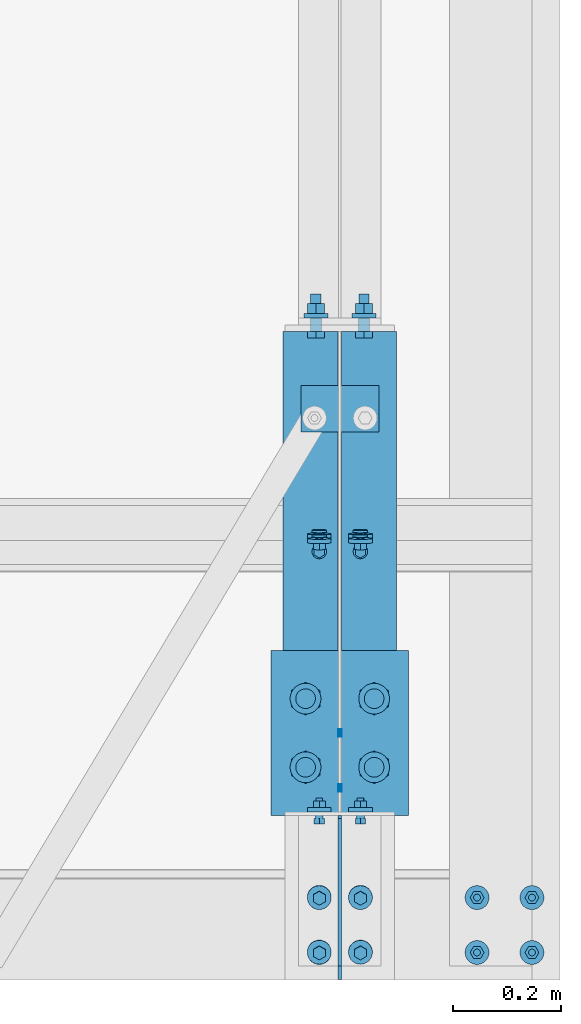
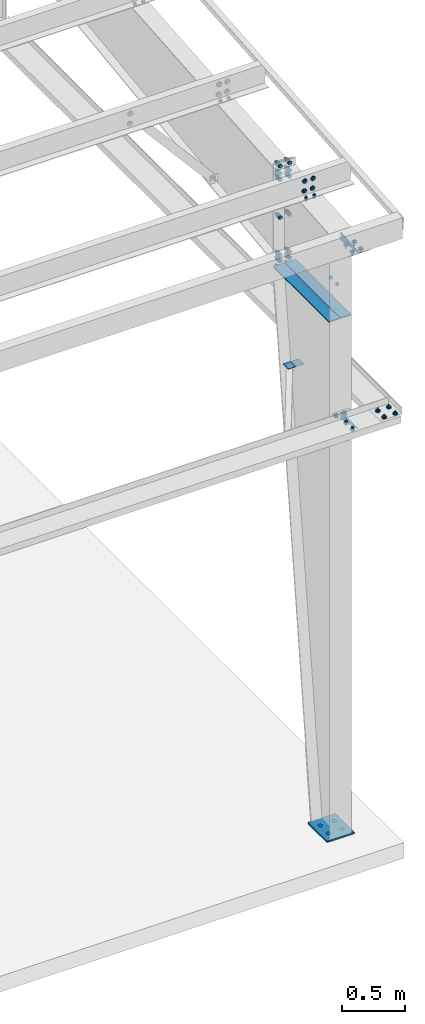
# One storey, part 104 of 185: 13 mechanical fasteners, 7 discrete accessories, 5 elements without a shape of their own.
"""IFC2X3 building model written with IfcOpenShell, lengths in millimetres."""

from ifc_helpers import new_model, si_unit, frame, frame_2d, origin_with_axes, origin_2d_with_axis, place, context, subcontext, project, spatial, polyline, circle_curve, parameter, trimmed, segment, composite_curve, rectangle, circle, outline, extrude, source, transform, mapped, material, type_object, element, aggregate, save


model = new_model("IFC2X3")

# Units and contexts
model_context = context("Model", 3, precision=1e-05, world=origin_with_axes())
body_context = subcontext(model_context, "Body", "Model", "MODEL_VIEW")
ifc_project = project(units=[si_unit("LENGTHUNIT", "METRE", prefix="MILLI"), si_unit("AREAUNIT", "SQUARE_METRE"), si_unit("VOLUMEUNIT", "CUBIC_METRE"), si_unit("MASSUNIT", "GRAM", prefix="KILO"), si_unit("TIMEUNIT", "SECOND"), si_unit("PLANEANGLEUNIT", "RADIAN"), si_unit("SOLIDANGLEUNIT", "STERADIAN"), si_unit("THERMODYNAMICTEMPERATUREUNIT", "DEGREE_CELSIUS"), si_unit("LUMINOUSINTENSITYUNIT", "LUMEN")], contexts=[model_context])

# Site, building, storey
site_placement = place(None, origin_with_axes())
site = spatial("IfcSite", under=ifc_project, at=site_placement, Name="Undefined", CompositionType="ELEMENT")
building_placement = place(site_placement, origin_with_axes())
building = spatial("IfcBuilding", under=site, at=building_placement, Name="Undefined", CompositionType="ELEMENT")
storey_placement = place(building_placement, origin_with_axes())
storey = spatial("IfcBuildingStorey", under=building, at=storey_placement, Name="Undefined", CompositionType="ELEMENT", Elevation=0.0)

# Assembly, discrete accessories
assembly_1_placement = place(storey_placement, origin_with_axes())
assembly_1 = element("IfcElementAssembly", 1, at=assembly_1_placement, inside=storey, Name="Steel Assembly", AssemblyPlace="NOTDEFINED", PredefinedType="RIGID_FRAME")
ifc_material_1 = material(Name="STEEL/55")
discrete_accessory_type_1 = type_object("IfcDiscreteAccessoryType", Name="Stiff")
discrete_accessory_1_placement = place(assembly_1_placement, frame((44605.575, 311.150000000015, 5064.52862492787), z_axis=(-1.0, 0.0, 0.0), x_axis=(0.0, 1.0, 0.0)))
discrete_accessory_1 = element("IfcDiscreteAccessory", 2, at=discrete_accessory_1_placement, type_object=discrete_accessory_type_1, material=ifc_material_1, Name="Stiff", ObjectType="FL3/8\"X4\"", context=body_context, shape_type="SweptSolid", body=[
    extrude(rectangle(XDim=9.525, YDim=101.6, at=origin_2d_with_axis()), frame((889.0, 0.0, 0.0), z_axis=(-1.0, 0.0, 0.0), x_axis=(0.0, -1.0, 0.0)), (0.0, 0.0, 1.0), 889.0),
])
discrete_accessory_2_placement = place(assembly_1_placement, frame((44497.625, 311.150000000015, 5064.52862492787), z_axis=(-1.0, 0.0, 0.0), x_axis=(0.0, 1.0, 0.0)))
discrete_accessory_2 = element("IfcDiscreteAccessory", 3, at=discrete_accessory_2_placement, type_object=discrete_accessory_type_1, material=ifc_material_1, Name="Stiff", ObjectType="FL3/8\"X4\"", context=body_context, shape_type="SweptSolid", body=[
    extrude(rectangle(XDim=9.525, YDim=101.6, at=origin_2d_with_axis()), frame((889.0, 0.0, 0.0), z_axis=(-1.0, 0.0, 0.0), x_axis=(0.0, -1.0, 0.0)), (0.0, 0.0, 1.0), 889.0),
])

# Assembly, mechanical fasteners
assembly_2_placement = place(storey_placement, origin_with_axes())
assembly_2 = element("IfcElementAssembly", 4, at=assembly_2_placement, inside=storey, Name="Steel Assembly", AssemblyPlace="NOTDEFINED", PredefinedType="RIGID_FRAME")
ifc_material_2 = material(Name="Undefined")
discrete_accessory_type_2 = type_object("IfcDiscreteAccessoryType", Name="Bolt assembly")
shared_shape_1 = source(origin_with_axes(), body_context, "Body", "SweptSolid", [
    extrude(circle(Radius=7.14374971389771, at=origin_2d_with_axis()), frame((0.0, -1.59000001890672, 0.0), z_axis=(0.0, 1.0, 0.0), x_axis=(1.0, 0.0, 0.0)), (0.0, 0.0, 1.0), 3.3),
    extrude(circle(Radius=13.4937496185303, at=origin_2d_with_axis()), frame((0.0, -5.5587500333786, 0.0), z_axis=(0.0, 1.0, 0.0), x_axis=(1.0, 0.0, 0.0)), (0.0, 0.0, 1.0), 4.0),
    extrude(circle(Radius=22.2250003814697, at=origin_2d_with_axis()), frame((0.0, 1.5900000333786, 0.0), z_axis=(0.0, 1.0, 0.0), x_axis=(1.0, 0.0, 0.0)), (0.0, 0.0, 1.0), 7.9),
    extrude(outline(polyline([(12.8316099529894, 0.0), (6.4158049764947, 11.1125001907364), (-6.4158049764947, 11.1125001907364), (-12.8316099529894, 0.0), (-6.4158049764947, -11.1125001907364), (6.4158049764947, -11.1125001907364), (12.8316099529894, 0.0)])), frame((0.0, 9.5275000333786, 0.0), z_axis=(0.0, 1.0, 0.0), x_axis=(1.0, 0.0, 0.0)), (0.0, 0.0, 1.0), 12.3),
])
mechanical_fastener_1_placement = place(assembly_2_placement, frame((44513.5, 818.861779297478, 6113.26239802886), z_axis=(-1.0, 0.0, 0.0), x_axis=(0.0, 0.0830454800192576, -0.996545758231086)))
mechanical_fastener_1 = element("IfcMechanicalFastener", 5, at=mechanical_fastener_1_placement, type_object=discrete_accessory_type_2, material=ifc_material_2, Name="Bolt assembly", NominalDiameter=12.6999998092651, NominalLength=38.0999984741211, context=body_context, shape_type="MappedRepresentation", body=[
    mapped(shared_shape_1, transform((0.0, 0.0, 0.0))),
    mapped(shared_shape_1, transform((101.599998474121, 0.0, 0.0))),
])
mechanical_fastener_2_placement = place(assembly_2_placement, frame((44589.7, 818.861779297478, 6113.26239802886), z_axis=(-1.0, 0.0, 0.0), x_axis=(0.0, 0.0830454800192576, -0.996545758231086)))
mechanical_fastener_2 = element("IfcMechanicalFastener", 6, at=mechanical_fastener_2_placement, type_object=discrete_accessory_type_2, material=ifc_material_2, Name="Bolt assembly", NominalDiameter=12.6999998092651, NominalLength=38.0999984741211, context=body_context, shape_type="MappedRepresentation", body=[
    mapped(shared_shape_1, transform((0.0, 0.0, 0.0))),
    mapped(shared_shape_1, transform((101.599998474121, 0.0, 0.0))),
])

# Mechanical fastener
shared_shape_2 = source(origin_with_axes(), body_context, "Body", "SweptSolid", [
    extrude(circle(Radius=7.14374971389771, at=origin_2d_with_axis()), frame((0.0, 0.0, 0.0), z_axis=(0.0, 1.0, 0.0), x_axis=(1.0, 0.0, 0.0)), (0.0, 0.0, 1.0), 6.5),
])
mechanical_fastener_3_placement = place(assembly_1_placement, frame((44554.775, 406.400000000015, 5372.09499893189), z_axis=(0.0, -1.0, 0.0), x_axis=(0.0, 0.0, 1.0)))
mechanical_fastener_3 = element("IfcMechanicalFastener", 7, at=mechanical_fastener_3_placement, type_object=discrete_accessory_type_2, material=ifc_material_2, Name="Bolt assembly", NominalDiameter=12.6999998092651, NominalLength=38.0999984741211, context=body_context, shape_type="MappedRepresentation", body=[
    mapped(shared_shape_2, transform((0.0, 0.0, -50.7999992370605))),
    mapped(shared_shape_2, transform((0.0, 0.0, 50.7999992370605))),
])

# Discrete accessory
discrete_accessory_type_3 = type_object("IfcDiscreteAccessoryType", Name="Base Plate")
discrete_accessory_3_placement = place(assembly_1_placement, frame((44551.6, 304.800000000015, 7.93749999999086), z_axis=(1.0, 0.0, 0.0), x_axis=(0.0, 1.0, 0.0)))
discrete_accessory_3 = element("IfcDiscreteAccessory", 8, at=discrete_accessory_3_placement, type_object=discrete_accessory_type_3, material=ifc_material_1, Name="Base Plate", ObjectType="FL5/8\"X10\"", context=body_context, shape_type="SweptSolid", body=[
    extrude(rectangle(XDim=15.875, YDim=254.0, at=origin_2d_with_axis()), frame((304.856675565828, 0.0, 0.0), z_axis=(-1.0, 0.0, 0.0), x_axis=(0.0, -1.0, 0.0)), (0.0, 0.0, 1.0), 304.9),
])

discrete_accessory_type_4 = type_object("IfcDiscreteAccessoryType", Name="FLANGE BRACE FLIP")
discrete_accessory_4_placement = place(assembly_1_placement, frame((44553.98125, 1057.60629748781, 4166.94511424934), z_axis=(0.0, 1.0, 0.0), x_axis=(1.0, 0.0, 0.0)))
discrete_accessory_4 = element("IfcDiscreteAccessory", 9, at=discrete_accessory_4_placement, type_object=discrete_accessory_type_4, material=ifc_material_1, Name="FLANGE BRACE FLIP", ObjectType="PL1/8\"X2 3/4\"", context=body_context, shape_type="SweptSolid", body=[
    extrude(rectangle(XDim=3.4163, YDim=85.725, at=origin_2d_with_axis()), frame((69.8499999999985, 0.0, 0.0), z_axis=(-1.0, 0.0, 0.0), x_axis=(0.0, -1.0, 0.0)), (0.0, 0.0, 1.0), 69.8),
])

discrete_accessory_5_placement = place(assembly_1_placement, frame((44549.21875, 1057.60629748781, 4166.94511424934), z_axis=(0.0, 1.0, 0.0), x_axis=(-1.0, 0.0, 0.0)))
discrete_accessory_5 = element("IfcDiscreteAccessory", 10, at=discrete_accessory_5_placement, type_object=discrete_accessory_type_4, material=ifc_material_1, Name="FLANGE BRACE FLIP", ObjectType="PL1/8\"X2 3/4\"", context=body_context, shape_type="SweptSolid", body=[
    extrude(rectangle(XDim=3.4163, YDim=85.725, at=origin_2d_with_axis()), frame((69.8499999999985, 0.0, 0.0), z_axis=(-1.0, 0.0, 0.0), x_axis=(0.0, -1.0, 0.0)), (0.0, 0.0, 1.0), 69.8),
])

# Assembly, mechanical fastener
assembly_3_placement = place(storey_placement, origin_with_axes())
assembly_3 = element("IfcElementAssembly", 11, at=assembly_3_placement, inside=storey, Name="Steel Assembly", AssemblyPlace="NOTDEFINED", PredefinedType="RIGID_FRAME")
shared_shape_3 = source(origin_with_axes(), body_context, "Body", "SweptSolid", [
    extrude(circle(Radius=7.14374971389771, at=origin_2d_with_axis()), frame((0.0, -3.08000006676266, 0.0), z_axis=(0.0, 1.0, 0.0), x_axis=(1.0, 0.0, 0.0)), (0.0, 0.0, 1.0), 3.2),
    extrude(circle(Radius=7.14374971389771, at=origin_2d_with_axis()), frame((0.0, -3.08000006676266, 0.0), z_axis=(0.0, 1.0, 0.0), x_axis=(1.0, 0.0, 0.0)), (0.0, 0.0, 1.0), 3.2),
    extrude(outline(polyline([(10.9985221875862, 0.0), (5.4992610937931, 9.52499961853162), (-5.4992610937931, 9.52499961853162), (-10.9985221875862, 0.0), (-5.4992610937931, -9.52499961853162), (5.4992610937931, -9.52499961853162), (10.9985221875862, 0.0)])), frame((0.0, -16.6737496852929, 0.0), z_axis=(0.0, 1.0, 0.0), x_axis=(1.0, 0.0, 0.0)), (0.0, 0.0, 1.0), 9.5),
    extrude(circle(Radius=6.34999990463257, at=origin_2d_with_axis()), frame((0.0, -7.14875006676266, 0.0), z_axis=(0.0, 1.0, 0.0), x_axis=(1.0, 0.0, 0.0)), (0.0, 0.0, 1.0), 38.1),
    extrude(circle(Radius=13.4937496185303, at=origin_2d_with_axis()), frame((0.0, -7.14875006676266, 0.0), z_axis=(0.0, 1.0, 0.0), x_axis=(1.0, 0.0, 0.0)), (0.0, 0.0, 1.0), 4.0),
    extrude(circle(Radius=22.2250003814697, at=origin_2d_with_axis()), frame((0.0, 0.0, 0.0), z_axis=(0.0, 1.0, 0.0), x_axis=(1.0, 0.0, 0.0)), (0.0, 0.0, 1.0), 7.9),
    extrude(outline(polyline([(12.8316099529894, 0.0), (6.4158049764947, 11.1125001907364), (-6.4158049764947, 11.1125001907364), (-12.8316099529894, 0.0), (-6.4158049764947, -11.1125001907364), (6.4158049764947, -11.1125001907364), (12.8316099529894, 0.0)])), frame((0.0, 7.93750000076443, 0.0), z_axis=(0.0, 1.0, 0.0), x_axis=(1.0, 0.0, 0.0)), (0.0, 0.0, 1.0), 12.3),
])
mechanical_fastener_4_placement = place(assembly_3_placement, frame((44907.1949989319, 101.59999694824, 4167.19000003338), z_axis=(0.0, 1.0, 0.0), x_axis=(-1.0, 0.0, 0.0)))
mechanical_fastener_4 = element("IfcMechanicalFastener", 12, at=mechanical_fastener_4_placement, type_object=discrete_accessory_type_2, material=ifc_material_2, Name="Bolt assembly", NominalDiameter=12.6999998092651, NominalLength=38.0999984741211, context=body_context, shape_type="MappedRepresentation", body=[
    mapped(shared_shape_3, transform((0.0, 0.0, -50.7999992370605))),
    mapped(shared_shape_3, transform((101.599998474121, 0.0, -50.7999992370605))),
    mapped(shared_shape_3, transform((0.0, 0.0, 50.7999992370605))),
    mapped(shared_shape_3, transform((101.599998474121, 0.0, 50.7999992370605))),
])
aggregate(assembly_3, [mechanical_fastener_4])

# Assembly, mechanical fasteners, discrete accessory
assembly_4_placement = place(storey_placement, origin_with_axes())
assembly_4 = element("IfcElementAssembly", 13, at=assembly_4_placement, inside=storey, Name="Steel Assembly", AssemblyPlace="NOTDEFINED", PredefinedType="RIGID_FRAME")
shared_shape_4 = source(origin_with_axes(), body_context, "Body", "SweptSolid", [
    extrude(circle(Radius=7.14374971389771, at=origin_2d_with_axis()), frame((0.0, -1.4900000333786, 0.0), z_axis=(0.0, 1.0, 0.0), x_axis=(1.0, 0.0, 0.0)), (0.0, 0.0, 1.0), 3.2),
    extrude(outline(composite_curve([segment(polyline([(7.14374971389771, 5.55625009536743), (7.14374971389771, -5.55625009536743)]), True, "CONTINUOUS"), segment(trimmed(circle_curve(frame_2d((0.0, -5.55625009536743), x_axis=(1.0, 0.0)), 7.1), [parameter(0.0)], [parameter(3.14159265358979)], False, "PARAMETER"), True, "CONTINUOUS"), segment(polyline([(-7.14374971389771, -5.55625009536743), (-7.14374971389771, 5.55625009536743)]), True, "CONTINUOUS"), segment(trimmed(circle_curve(frame_2d((0.0, 5.55625009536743), x_axis=(-1.0, 0.0)), 7.1), [parameter(0.0)], [parameter(3.14159265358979)], False, "PARAMETER"), True, "DISCONTINUOUS")], self_intersect=False)), frame((0.0, -0.1, 0.0), z_axis=(0.0, 1.0, 0.0), x_axis=(1.0, 0.0, 0.0)), (0.0, 0.0, 1.0), 6.5),
    extrude(outline(polyline([(10.9985221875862, 0.0), (5.4992610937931, 9.52499961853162), (-5.4992610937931, 9.52499961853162), (-10.9985221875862, 0.0), (-5.4992610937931, -9.52499961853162), (5.4992610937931, -9.52499961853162), (10.9985221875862, 0.0)])), frame((0.0, -15.0837496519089, 0.0), z_axis=(0.0, 1.0, 0.0), x_axis=(1.0, 0.0, 0.0)), (0.0, 0.0, 1.0), 9.5),
    extrude(circle(Radius=6.34999990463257, at=origin_2d_with_axis()), frame((0.0, -5.5587500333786, 0.0), z_axis=(0.0, 1.0, 0.0), x_axis=(1.0, 0.0, 0.0)), (0.0, 0.0, 1.0), 38.1),
    extrude(circle(Radius=13.4937496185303, at=origin_2d_with_axis()), frame((0.0, -5.5587500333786, 0.0), z_axis=(0.0, 1.0, 0.0), x_axis=(1.0, 0.0, 0.0)), (0.0, 0.0, 1.0), 4.0),
    extrude(circle(Radius=22.2250003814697, at=origin_2d_with_axis()), frame((0.0, 6.35000000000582, 0.0), z_axis=(0.0, 1.0, 0.0), x_axis=(1.0, 0.0, 0.0)), (0.0, 0.0, 1.0), 7.9),
    extrude(outline(polyline([(12.8316099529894, 0.0), (6.4158049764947, 11.1125001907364), (-6.4158049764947, 11.1125001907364), (-12.8316099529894, 0.0), (-6.4158049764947, -11.1125001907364), (6.4158049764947, -11.1125001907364), (12.8316099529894, 0.0)])), frame((0.0, 14.2875000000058, 0.0), z_axis=(0.0, 1.0, 0.0), x_axis=(1.0, 0.0, 0.0)), (0.0, 0.0, 1.0), 12.3),
])
mechanical_fastener_5_placement = place(assembly_4_placement, frame((44513.5, 50.7999992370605, 4165.6), z_axis=(-1.0, 0.0, 0.0), x_axis=(0.0, 1.0, 0.0)))
mechanical_fastener_5 = element("IfcMechanicalFastener", 14, at=mechanical_fastener_5_placement, type_object=discrete_accessory_type_2, material=ifc_material_2, Name="Bolt assembly", NominalDiameter=12.6999998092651, NominalLength=38.0999984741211, context=body_context, shape_type="MappedRepresentation", body=[
    mapped(shared_shape_4, transform((0.0, 0.0, 0.0))),
    mapped(shared_shape_4, transform((101.599998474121, 0.0, 0.0))),
])
shared_shape_5 = source(origin_with_axes(), body_context, "Body", "SweptSolid", [
    extrude(circle(Radius=7.14374971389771, at=origin_2d_with_axis()), frame((0.0, -0.1, 0.0), z_axis=(0.0, 1.0, 0.0), x_axis=(1.0, 0.0, 0.0)), (0.0, 0.0, 1.0), 6.5),
    extrude(circle(Radius=7.14374971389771, at=origin_2d_with_axis()), frame((0.0, -6.24999999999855, 0.0), z_axis=(0.0, 1.0, 0.0), x_axis=(1.0, 0.0, 0.0)), (0.0, 0.0, 1.0), 6.4),
    extrude(outline(polyline([(10.9985221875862, 0.0), (5.4992610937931, 9.52499961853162), (-5.4992610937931, 9.52499961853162), (-10.9985221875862, 0.0), (-5.4992610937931, -9.52499961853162), (5.4992610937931, -9.52499961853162), (10.9985221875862, 0.0)])), frame((0.0, -15.8750000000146, 0.0), z_axis=(0.0, 1.0, 0.0), x_axis=(1.0, 0.0, 0.0)), (0.0, 0.0, 1.0), 9.5),
    extrude(circle(Radius=6.34999990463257, at=origin_2d_with_axis()), frame((0.0, -6.34999953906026, 0.0), z_axis=(0.0, 1.0, 0.0), x_axis=(1.0, 0.0, 0.0)), (0.0, 0.0, 1.0), 38.1),
    extrude(circle(Radius=22.2250003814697, at=origin_2d_with_axis()), frame((0.0, 6.35000000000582, 0.0), z_axis=(0.0, 1.0, 0.0), x_axis=(1.0, 0.0, 0.0)), (0.0, 0.0, 1.0), 7.9),
    extrude(outline(polyline([(12.8316099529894, 0.0), (6.4158049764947, 11.1125001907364), (-6.4158049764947, 11.1125001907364), (-12.8316099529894, 0.0), (-6.4158049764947, -11.1125001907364), (6.4158049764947, -11.1125001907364), (12.8316099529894, 0.0)])), frame((0.0, 14.2875000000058, 0.0), z_axis=(0.0, 1.0, 0.0), x_axis=(1.0, 0.0, 0.0)), (0.0, 0.0, 1.0), 12.3),
])
mechanical_fastener_6_placement = place(assembly_4_placement, frame((44551.6, 304.8, 4127.5), z_axis=(1.0, 0.0, 0.0), x_axis=(0.0, 0.0, -1.0)))
mechanical_fastener_6 = element("IfcMechanicalFastener", 15, at=mechanical_fastener_6_placement, type_object=discrete_accessory_type_2, material=ifc_material_2, Name="Bolt assembly", NominalDiameter=12.6999998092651, NominalLength=38.0999984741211, context=body_context, shape_type="MappedRepresentation", body=[
    mapped(shared_shape_5, transform((0.0, 0.0, -38.0999984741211))),
    mapped(shared_shape_5, transform((0.0, 0.0, 38.0999984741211))),
])
discrete_accessory_type_5 = type_object("IfcDiscreteAccessoryType", Name="Gusett")
discrete_accessory_6_placement = place(assembly_4_placement, frame((44551.6, 298.449999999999, 4089.4), z_axis=(1.0, 0.0, 0.0), x_axis=(0.0, 0.0, 1.0)))
discrete_accessory_6 = element("IfcDiscreteAccessory", 16, at=discrete_accessory_6_placement, type_object=discrete_accessory_type_5, material=ifc_material_1, Name="Gusett", ObjectType="FL1/4\"X2 3/4\"", context=body_context, shape_type="SweptSolid", body=[
    extrude(outline(polyline([(0.0, 0.0), (69.8499984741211, 0.0), (69.8499984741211, 273.049987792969), (0.0, 0.0)])), frame((0.0, -9.09494701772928e-13, -3.2), z_axis=(0.0, 0.0, 1.0), x_axis=(1.0, 0.0, 0.0)), (0.0, 0.0, 1.0), 6.4),
])
aggregate(assembly_4, [mechanical_fastener_5, mechanical_fastener_6, discrete_accessory_6])

# Discrete accessory
discrete_accessory_type_6 = type_object("IfcDiscreteAccessoryType", Name="Gusset")
discrete_accessory_7_placement = place(assembly_1_placement, frame((44551.6, 304.800000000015, 5911.12365466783), z_axis=(1.0, 0.0, 0.0), x_axis=(0.0, -0.996548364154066, -0.0830142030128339)))
discrete_accessory_7 = element("IfcDiscreteAccessory", 17, at=discrete_accessory_7_placement, type_object=discrete_accessory_type_6, material=ifc_material_1, Name="Gusset", ObjectType="1/4\"X2 15/16\"", context=body_context, shape_type="SweptSolid", body=[
    extrude(outline(polyline([(0.0, 0.0), (305.244781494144, -7.45785655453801e-11), (6.32568216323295, 75.9369888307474), (0.0, 0.0)])), frame((0.0, -9.09494701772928e-13, -3.2), z_axis=(0.0, 0.0, 1.0), x_axis=(1.0, 0.0, 0.0)), (0.0, 0.0, 1.0), 6.4),
])

# Mechanical fastener
shared_shape_6 = source(origin_with_axes(), body_context, "Body", "SweptSolid", [
    extrude(circle(Radius=10.3187494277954, at=origin_2d_with_axis()), frame((0.0, -0.1, 0.0), z_axis=(0.0, 1.0, 0.0), x_axis=(1.0, 0.0, 0.0)), (0.0, 0.0, 1.0), 12.8),
    extrude(circle(Radius=10.3187494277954, at=origin_2d_with_axis()), frame((0.0, -12.5999999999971, 0.0), z_axis=(0.0, 1.0, 0.0), x_axis=(1.0, 0.0, 0.0)), (0.0, 0.0, 1.0), 12.7),
    extrude(outline(polyline([(18.3308710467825, 0.0), (9.16543552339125, 15.8750000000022), (-9.16543552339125, 15.8750000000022), (-18.3308710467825, 0.0), (-9.16543552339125, -15.8750000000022), (9.16543552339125, -15.8750000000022), (18.3308710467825, 0.0)])), frame((0.0, -24.6062499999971, 0.0), z_axis=(0.0, 1.0, 0.0), x_axis=(1.0, 0.0, 0.0)), (0.0, 0.0, 1.0), 11.9),
    extrude(circle(Radius=9.52499961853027, at=origin_2d_with_axis()), frame((0.0, -12.6999999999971, 0.0), z_axis=(0.0, 1.0, 0.0), x_axis=(1.0, 0.0, 0.0)), (0.0, 0.0, 1.0), 69.8),
    extrude(circle(Radius=22.2250003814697, at=origin_2d_with_axis()), frame((0.0, 12.6999999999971, 0.0), z_axis=(0.0, 1.0, 0.0), x_axis=(1.0, 0.0, 0.0)), (0.0, 0.0, 1.0), 7.9),
    extrude(outline(polyline([(18.3308710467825, 0.0), (9.16543552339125, 15.8750000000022), (-9.16543552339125, 15.8750000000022), (-18.3308710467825, 0.0), (-9.16543552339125, -15.8750000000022), (9.16543552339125, -15.8750000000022), (18.3308710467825, 0.0)])), frame((0.0, 20.6374999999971, 0.0), z_axis=(0.0, 1.0, 0.0), x_axis=(1.0, 0.0, 0.0)), (0.0, 0.0, 1.0), 19.0),
])
mechanical_fastener_7_placement = place(assembly_1_placement, frame((44551.6, 1212.85000000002, 5527.94898109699), z_axis=(1.0, 0.0, 0.0), x_axis=(0.0, 0.0, -1.0)))
mechanical_fastener_7 = element("IfcMechanicalFastener", 18, at=mechanical_fastener_7_placement, type_object=discrete_accessory_type_2, material=ifc_material_2, Name="Bolt assembly", NominalDiameter=19.0499992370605, NominalLength=69.8499984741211, context=body_context, shape_type="MappedRepresentation", body=[
    mapped(shared_shape_6, transform((0.0, 0.0, -44.4500007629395))),
    mapped(shared_shape_6, transform((0.0, 0.0, 44.4500007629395))),
])

mechanical_fastener_8_placement = place(assembly_1_placement, frame((44551.6, 1212.85000000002, 5026.29898109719), z_axis=(-1.0, 0.0, 0.0), x_axis=(0.0, 0.0, 1.0)))
mechanical_fastener_8 = element("IfcMechanicalFastener", 19, at=mechanical_fastener_8_placement, type_object=discrete_accessory_type_2, material=ifc_material_2, Name="Bolt assembly", NominalDiameter=19.0499992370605, NominalLength=69.8499984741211, context=body_context, shape_type="MappedRepresentation", body=[
    mapped(shared_shape_6, transform((0.0, 0.0, -44.4500007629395))),
    mapped(shared_shape_6, transform((76.1999969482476, 0.0, -44.4500007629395))),
    mapped(shared_shape_6, transform((133.350006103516, 0.0, -44.4500007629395))),
    mapped(shared_shape_6, transform((0.0, 0.0, 44.4500007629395))),
    mapped(shared_shape_6, transform((76.1999969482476, 0.0, 44.4500007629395))),
    mapped(shared_shape_6, transform((133.350006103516, 0.0, 44.4500007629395))),
])

mechanical_fastener_9_placement = place(assembly_1_placement, frame((44551.6, 1212.85000000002, 6029.59898109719), z_axis=(1.0, 0.0, 0.0), x_axis=(0.0, 0.0, -1.0)))
mechanical_fastener_9 = element("IfcMechanicalFastener", 20, at=mechanical_fastener_9_placement, type_object=discrete_accessory_type_2, material=ifc_material_2, Name="Bolt assembly", NominalDiameter=19.0499992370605, NominalLength=69.8499984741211, context=body_context, shape_type="MappedRepresentation", body=[
    mapped(shared_shape_6, transform((0.0, 0.0, -44.4500007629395))),
    mapped(shared_shape_6, transform((76.1999969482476, 0.0, -44.4500007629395))),
    mapped(shared_shape_6, transform((133.350006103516, 0.0, -44.4500007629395))),
    mapped(shared_shape_6, transform((0.0, 0.0, 44.4500007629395))),
    mapped(shared_shape_6, transform((76.1999969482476, 0.0, 44.4500007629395))),
    mapped(shared_shape_6, transform((133.350006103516, 0.0, 44.4500007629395))),
])

shared_shape_7 = source(origin_with_axes(), body_context, "Body", "SweptSolid", [
    extrude(circle(Radius=7.14374971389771, at=origin_2d_with_axis()), frame((0.0, -0.1, 0.0), z_axis=(0.0, 1.0, 0.0), x_axis=(1.0, 0.0, 0.0)), (0.0, 0.0, 1.0), 6.5),
    extrude(circle(Radius=7.14374971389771, at=origin_2d_with_axis()), frame((0.0, -3.08000006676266, 0.0), z_axis=(0.0, 1.0, 0.0), x_axis=(1.0, 0.0, 0.0)), (0.0, 0.0, 1.0), 3.2),
    extrude(outline(polyline([(10.9985221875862, 0.0), (5.4992610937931, 9.52499961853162), (-5.4992610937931, 9.52499961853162), (-10.9985221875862, 0.0), (-5.4992610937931, -9.52499961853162), (5.4992610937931, -9.52499961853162), (10.9985221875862, 0.0)])), frame((0.0, -16.6737496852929, 0.0), z_axis=(0.0, 1.0, 0.0), x_axis=(1.0, 0.0, 0.0)), (0.0, 0.0, 1.0), 9.5),
    extrude(circle(Radius=6.34999990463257, at=origin_2d_with_axis()), frame((0.0, -7.14875006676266, 0.0), z_axis=(0.0, 1.0, 0.0), x_axis=(1.0, 0.0, 0.0)), (0.0, 0.0, 1.0), 38.1),
    extrude(circle(Radius=13.4937496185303, at=origin_2d_with_axis()), frame((0.0, -7.14875006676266, 0.0), z_axis=(0.0, 1.0, 0.0), x_axis=(1.0, 0.0, 0.0)), (0.0, 0.0, 1.0), 4.0),
    extrude(outline(polyline([(12.8316099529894, 0.0), (6.4158049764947, 11.1125001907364), (-6.4158049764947, 11.1125001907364), (-12.8316099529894, 0.0), (-6.4158049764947, -11.1125001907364), (6.4158049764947, -11.1125001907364), (12.8316099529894, 0.0)])), frame((0.0, 6.35000000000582, 0.0), z_axis=(0.0, 1.0, 0.0), x_axis=(1.0, 0.0, 0.0)), (0.0, 0.0, 1.0), 12.3),
])
mechanical_fastener_10_placement = place(assembly_2_placement, frame((44551.6, 793.549517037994, 5958.22479168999), z_axis=(1.0, 0.0, 0.0), x_axis=(0.0, -0.996545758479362, -0.0830454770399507)))
mechanical_fastener_10 = element("IfcMechanicalFastener", 21, at=mechanical_fastener_10_placement, type_object=discrete_accessory_type_2, material=ifc_material_2, Name="Bolt assembly", NominalDiameter=12.6999998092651, NominalLength=38.0999984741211, context=body_context, shape_type="MappedRepresentation", body=[
    mapped(shared_shape_7, transform((0.0, 0.0, -38.0999984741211))),
    mapped(shared_shape_7, transform((0.0, 0.0, 38.0999984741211))),
])

aggregate(assembly_2, [mechanical_fastener_10, mechanical_fastener_1, mechanical_fastener_2])

shared_shape_8 = source(origin_with_axes(), body_context, "Body", "SweptSolid", [
    extrude(circle(Radius=7.14499998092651, at=origin_2d_with_axis()), frame((0.0, -1.48750355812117, 0.0), z_axis=(0.0, 1.0, 0.0), x_axis=(1.0, 0.0, 0.0)), (0.0, 0.0, 1.0), 1.6),
    extrude(circle(Radius=7.14499998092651, at=origin_2d_with_axis()), frame((0.0, -0.1, 0.0), z_axis=(0.0, 1.0, 0.0), x_axis=(1.0, 0.0, 0.0)), (0.0, 0.0, 1.0), 6.4),
    extrude(outline(polyline([(12.8316099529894, 0.0), (6.4158049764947, 11.1125001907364), (-6.4158049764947, 11.1125001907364), (-12.8316099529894, 0.0), (-6.4158049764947, -11.1125001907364), (6.4158049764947, -11.1125001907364), (12.8316099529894, 0.0)])), frame((0.0, -9.52499961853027, 0.0), z_axis=(0.0, 1.0, 0.0), x_axis=(1.0, 0.0, 0.0)), (0.0, 0.0, 1.0), 7.9),
    extrude(circle(Radius=6.34999990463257, at=origin_2d_with_axis()), frame((0.0, -1.58749999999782, 0.0), z_axis=(0.0, 1.0, 0.0), x_axis=(1.0, 0.0, 0.0)), (0.0, 0.0, 1.0), 50.8),
    extrude(circle(Radius=22.2250003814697, at=origin_2d_with_axis()), frame((0.0, 6.35000000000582, 0.0), z_axis=(0.0, 1.0, 0.0), x_axis=(1.0, 0.0, 0.0)), (0.0, 0.0, 1.0), 7.9),
    extrude(outline(polyline([(12.8316099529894, 0.0), (6.4158049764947, 11.1125001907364), (-6.4158049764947, 11.1125001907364), (-12.8316099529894, 0.0), (-6.4158049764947, -11.1125001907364), (6.4158049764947, -11.1125001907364), (12.8316099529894, 0.0)])), frame((0.0, 14.2875000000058, 0.0), z_axis=(0.0, 1.0, 0.0), x_axis=(1.0, 0.0, 0.0)), (0.0, 0.0, 1.0), 12.3),
])
mechanical_fastener_11_placement = place(assembly_1_placement, frame((44513.5, 50.6245237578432, 5896.31437545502), z_axis=(-1.0, 0.0, 0.0), x_axis=(0.0, 0.996545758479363, 0.0830454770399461)))
mechanical_fastener_11 = element("IfcMechanicalFastener", 22, at=mechanical_fastener_11_placement, type_object=discrete_accessory_type_2, material=ifc_material_2, Name="Bolt assembly", NominalDiameter=12.6999998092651, NominalLength=50.7999992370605, context=body_context, shape_type="MappedRepresentation", body=[
    mapped(shared_shape_8, transform((0.0, 0.0, 0.0))),
    mapped(shared_shape_8, transform((101.599998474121, 0.0, 0.0))),
])

# Assembly, mechanical fastener
assembly_5_placement = place(storey_placement, origin_with_axes())
assembly_5 = element("IfcElementAssembly", 23, at=assembly_5_placement, inside=storey, Name="Steel Assembly", AssemblyPlace="NOTDEFINED", PredefinedType="RIGID_FRAME")
shared_shape_9 = source(origin_with_axes(), body_context, "Body", "SweptSolid", [
    extrude(circle(Radius=7.14499998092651, at=origin_2d_with_axis()), frame((0.0, -0.1, 0.0), z_axis=(0.0, 1.0, 0.0), x_axis=(1.0, 0.0, 0.0)), (0.0, 0.0, 1.0), 6.4),
    extrude(circle(Radius=7.14499998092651, at=origin_2d_with_axis()), frame((0.0, -1.48750355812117, 0.0), z_axis=(0.0, 1.0, 0.0), x_axis=(1.0, 0.0, 0.0)), (0.0, 0.0, 1.0), 1.6),
    extrude(outline(polyline([(12.8316099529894, 0.0), (6.4158049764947, 11.1125001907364), (-6.4158049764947, 11.1125001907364), (-12.8316099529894, 0.0), (-6.4158049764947, -11.1125001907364), (6.4158049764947, -11.1125001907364), (12.8316099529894, 0.0)])), frame((0.0, -9.52499961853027, 0.0), z_axis=(0.0, 1.0, 0.0), x_axis=(1.0, 0.0, 0.0)), (0.0, 0.0, 1.0), 7.9),
    extrude(circle(Radius=6.34999990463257, at=origin_2d_with_axis()), frame((0.0, -1.58749999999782, 0.0), z_axis=(0.0, 1.0, 0.0), x_axis=(1.0, 0.0, 0.0)), (0.0, 0.0, 1.0), 50.8),
    extrude(circle(Radius=22.2250003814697, at=origin_2d_with_axis()), frame((0.0, 6.35000000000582, 0.0), z_axis=(0.0, 1.0, 0.0), x_axis=(1.0, 0.0, 0.0)), (0.0, 0.0, 1.0), 7.9),
    extrude(outline(polyline([(12.8316099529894, 0.0), (6.4158049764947, 11.1125001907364), (-6.4158049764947, 11.1125001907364), (-12.8316099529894, 0.0), (-6.4158049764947, -11.1125001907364), (6.4158049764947, -11.1125001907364), (12.8316099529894, 0.0)])), frame((0.0, 14.2875000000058, 0.0), z_axis=(0.0, 1.0, 0.0), x_axis=(1.0, 0.0, 0.0)), (0.0, 0.0, 1.0), 12.3),
])
mechanical_fastener_12_placement = place(assembly_5_placement, frame((44589.7, 50.6245237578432, 5896.31437545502), z_axis=(-1.0, 0.0, 0.0), x_axis=(0.0, 0.996545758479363, 0.0830454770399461)))
mechanical_fastener_12 = element("IfcMechanicalFastener", 24, at=mechanical_fastener_12_placement, type_object=discrete_accessory_type_2, material=ifc_material_2, Name="Bolt assembly", NominalDiameter=12.6999998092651, NominalLength=50.7999992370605, context=body_context, shape_type="MappedRepresentation", body=[
    mapped(shared_shape_9, transform((0.0, 0.0, 0.0))),
    mapped(shared_shape_9, transform((101.599998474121, 0.0, 0.0))),
])
aggregate(assembly_5, [mechanical_fastener_12])

# Mechanical fastener
ifc_material_3 = material(Name="7990")
shared_shape_10 = source(origin_with_axes(), body_context, "Body", "SweptSolid", [
    extrude(circle(Radius=18.2562503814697, at=origin_2d_with_axis()), frame((0.0, -15.8750000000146, 0.0), z_axis=(0.0, 1.0, 0.0), x_axis=(1.0, 0.0, 0.0)), (0.0, 0.0, 1.0), 16.0),
    extrude(circle(Radius=28.575, at=origin_2d_with_axis()), frame((0.0, 0.0, 0.0), z_axis=(0.0, 1.0, 0.0), x_axis=(1.0, 0.0, 0.0)), (0.0, 0.0, 1.0), 10.5),
    extrude(outline(polyline([(30.4292459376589, 0.0), (15.2146229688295, 26.3525000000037), (-15.2146229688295, 26.3525000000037), (-30.4292459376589, 0.0), (-15.2146229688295, -26.3525000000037), (15.2146229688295, -26.3525000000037), (30.4292459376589, 0.0)])), frame((0.0, 10.4775, 0.0), z_axis=(0.0, 1.0, 0.0), x_axis=(1.0, 0.0, 0.0)), (0.0, 0.0, 1.0), 21.0),
])
mechanical_fastener_13_placement = place(assembly_1_placement, frame((44551.6, 393.700001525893, -9.14202047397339e-12), z_axis=(-1.0, 0.0, 0.0), x_axis=(0.0, 1.0, 0.0)))
mechanical_fastener_13 = element("IfcMechanicalFastener", 25, at=mechanical_fastener_13_placement, type_object=discrete_accessory_type_2, material=ifc_material_3, Name="Bolt assembly", NominalDiameter=31.75, NominalLength=15.875, context=body_context, shape_type="MappedRepresentation", body=[
    mapped(shared_shape_10, transform((0.0, 0.0, -63.5))),
    mapped(shared_shape_10, transform((127.0, 0.0, -63.5))),
    mapped(shared_shape_10, transform((0.0, 0.0, 63.5))),
    mapped(shared_shape_10, transform((127.0, 0.0, 63.5))),
])

aggregate(assembly_1, [mechanical_fastener_3, discrete_accessory_4, discrete_accessory_5, discrete_accessory_7, mechanical_fastener_7, mechanical_fastener_11, mechanical_fastener_8, mechanical_fastener_9, mechanical_fastener_13, discrete_accessory_1, discrete_accessory_2, discrete_accessory_3])

save(model, "model.ifc")
